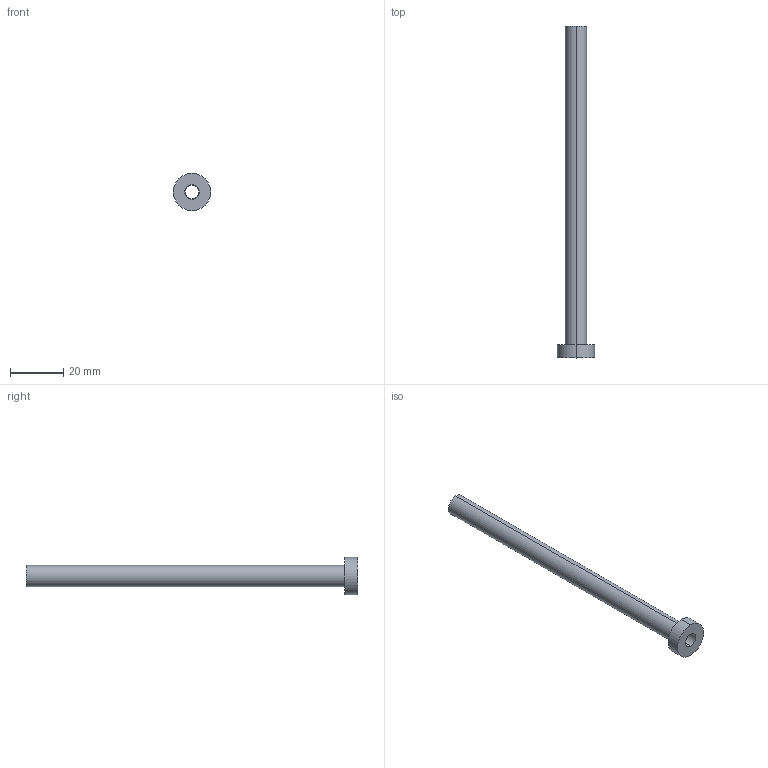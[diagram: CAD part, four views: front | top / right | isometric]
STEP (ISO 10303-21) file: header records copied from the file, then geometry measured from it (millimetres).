
FILE_DESCRIPTION (( 'STEP AP214' ), '1' );
FILE_NAME ('ET-ETN-5x125.STEP', '2019-12-16T16:56:56', ( 'August' ), ( '' ), 'SwSTEP 2.0', 'SolidWorks 2018', '' );
FILE_SCHEMA (( 'AUTOMOTIVE_DESIGN' ));
Length unit declared in the file: millimetre
Products named in the file (1): ET-ETN-5x125
Bounding box: 14 x 125 x 14 mm (x, y, z)
Volume: 4017.8 mm3; surface area: 5591 mm2
Topology: 1 solids, 1 shells, 13 faces, 26 edges, 16 vertices
Faces by surface type: cylinder 8, plane 3, cone 2
Entity records: 382 total; most frequent: DIRECTION 70, CARTESIAN_POINT 56, ORIENTED_EDGE 52, AXIS2_PLACEMENT_3D 30, EDGE_CURVE 26, EDGE_LOOP 16, VERTEX_POINT 16, CIRCLE 16
